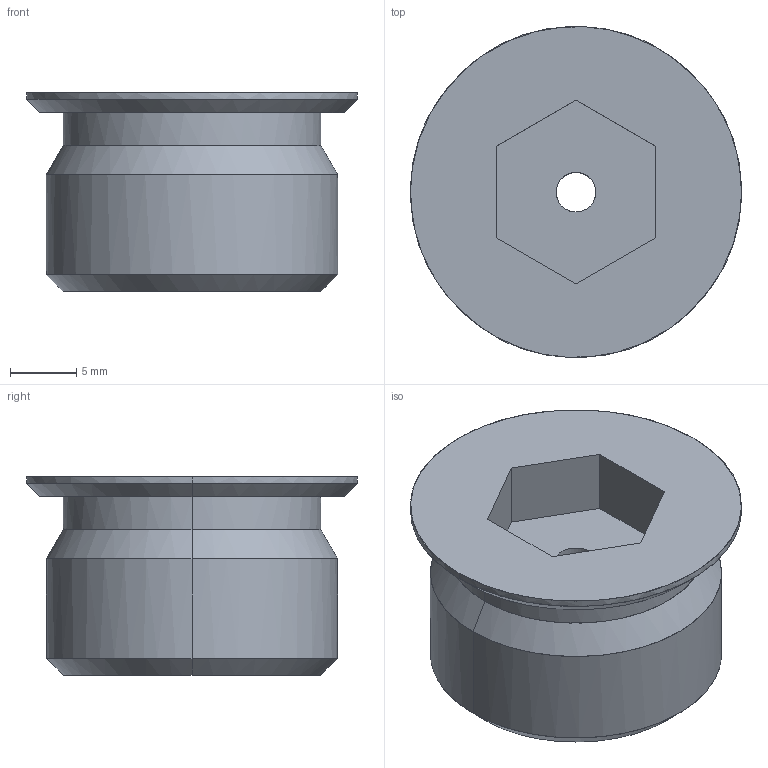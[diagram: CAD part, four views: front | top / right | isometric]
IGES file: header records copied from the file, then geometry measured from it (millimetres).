
Global section: file name: E:\UnigraphicsGraphicData\MISUMI_PRESS-PARTS\IGES\3d_mswzh22_00483_r00.igs; native system: NX V5.0; preprocessor: UGS NX IGES V5.0; author: MISUMI; date: 20110105.161528; units: millimetre
Bounding box: 25 x 25 x 15 mm (x, y, z)
Surface area: 2298.8 mm2 (no closed solid volume)
Topology: 0 solids, 0 shells, 24 faces, 140 edges, 140 vertices
Faces by surface type: bspline 24
